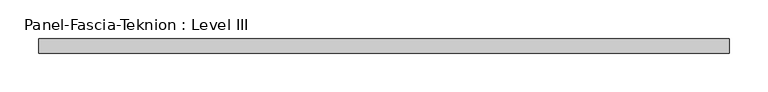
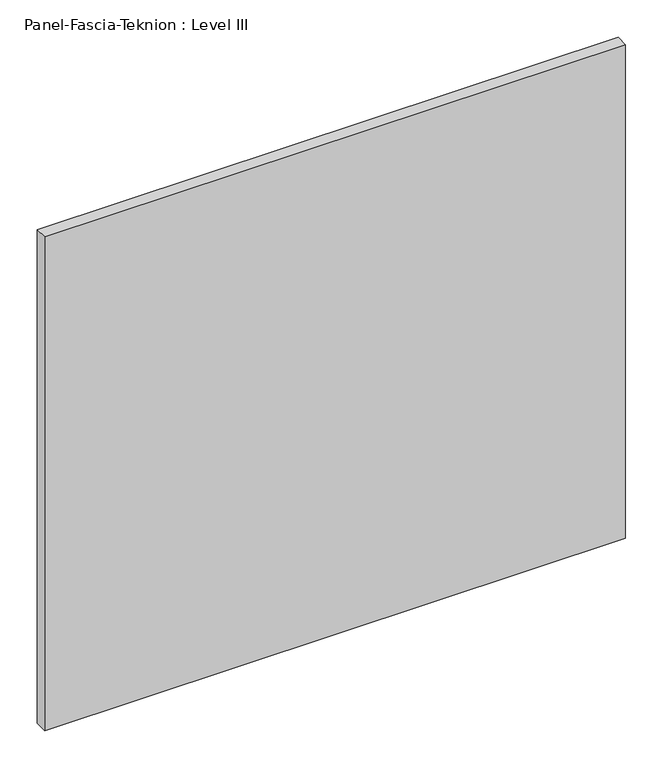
"""IFC4 building model written with IfcOpenShell, lengths in millimetres: proxy geometry, Panel-Fascia-Teknion : Level III."""

from ifc_helpers import new_model, si_unit, frame, origin, place, context, project, spatial, polyline, outline, extrude, source, transform, mapped, element, save


def panel_fascia_teknion_level_iii_5cb2406b(model_context):
    return source(origin(), model_context, "Body", "SweptSolid", [
        extrude(outline(polyline([(447.6253906, -9.525), (-447.6253906, -9.525), (-447.6253906, 9.525), (447.6253906, 9.525), (447.6253906, -9.525)])), frame((0.0, 0.0, 3.175), z_axis=(0.0, 0.0, 1.0), x_axis=(1.0, 0.0, 0.0)), (0.0, 0.0, 1.0), 804.418),
    ])


if __name__ == "__main__":
    model = new_model("IFC4")
    model_context = context("Model", 3, world=origin())
    ifc_project = project(units=[si_unit("LENGTHUNIT", "METRE", prefix="MILLI")], contexts=[model_context])
    site = spatial("IfcSite", under=ifc_project)
    building = spatial("IfcBuilding", under=site)
    placement = place(None, origin())
    panel_fascia_teknion_level_iii_shape = panel_fascia_teknion_level_iii_5cb2406b(model_context)
    element("IfcBuildingElementProxy", 1, Name="Panel-Fascia-Teknion : Level III", ObjectType="Panel-Fascia-Teknion : Level III", at=placement, inside=building, context=model_context, shape_type="MappedRepresentation", body=[
        mapped(panel_fascia_teknion_level_iii_shape, transform((0.0, 0.0, 0.0), x_axis=(1.0, 0.0, 0.0), y_axis=(0.0, 1.0, 0.0), z_axis=(0.0, 0.0, 1.0))),
    ])
    save(model, "model.ifc")
